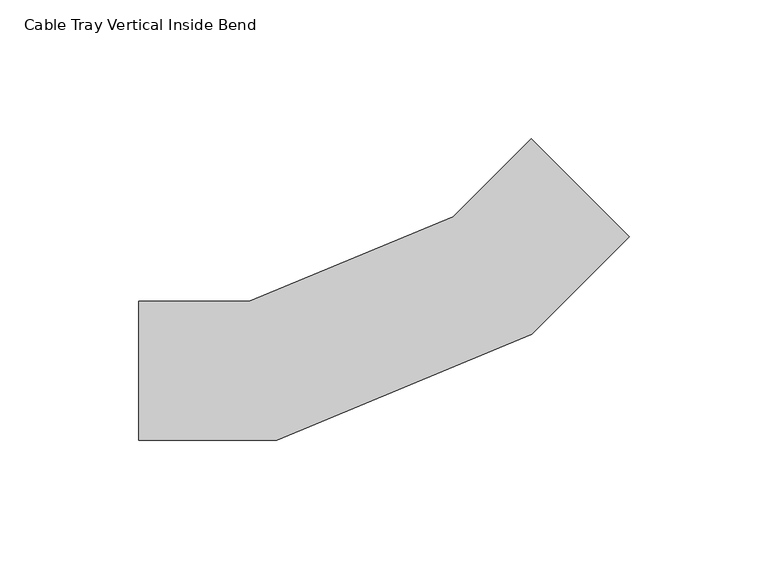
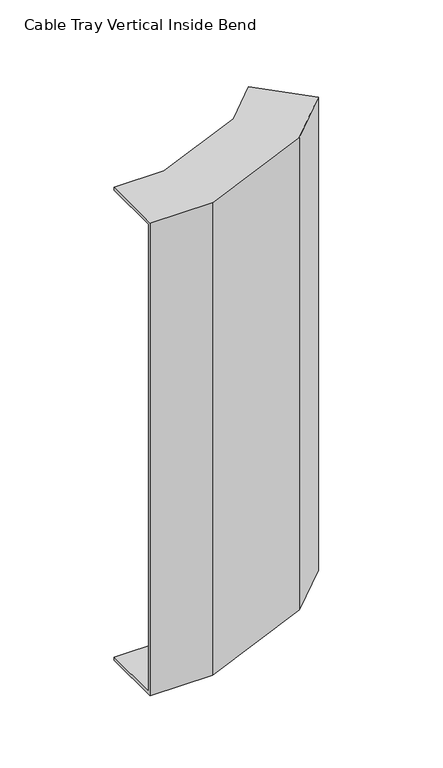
"""IFC4 building model written with IfcOpenShell, lengths in millimetres: cable carrier fitting geometry, Cable Tray Vertical Inside Bend : ELEC_SUB_CT_N2402."""

from ifc_helpers import new_model, si_unit, origin, place, context, project, spatial, faceted_brep, source, transform, mapped, element, save


def cable_tray_vertical_inside_bend_f6baaffd(model_context):
    return source(origin(), model_context, "Body", "Brep", [
        faceted_brep([(-93.1980515, 25.0, 200.0), (-93.1980515, 25.0, 197.46), (-93.1980515, -22.46, 197.46), (-93.1980515, -22.46, -197.46), (-93.1980515, 25.0, -197.46), (-93.1980515, 25.0, -200.0), (-93.1980515, -25.0, -200.0), (-93.1980515, -25.0, 200.0), (48.2233047, 83.5786438, 200.0), (83.5786438, 48.2233047, 200.0), (83.5786438, 48.2233047, -200.0), (48.2233047, 83.5786438, -200.0), (48.2233047, 83.5786438, -197.46), (81.7825925, 50.0193559, -197.46), (81.7825925, 50.0193559, 197.46), (48.2233047, 83.5786438, 197.46), (-53.4155781, 25.0, 200.0), (-53.4155781, 25.0, 197.46), (20.0928479, 55.448187, 197.46), (46.9767784, 15.2135418, 197.46), (-43.9751971, -22.46, 197.46), (-43.9751971, -22.46, -197.46), (46.9767784, 15.2135418, -197.46), (20.0928479, 55.448187, -197.46), (-53.4155781, 25.0, -197.46), (-53.4155781, 25.0, -200.0), (20.0928479, 55.448187, -200.0), (48.4155728, 13.0602337, -200.0), (-43.4699597, -25.0, -200.0), (-43.4699597, -25.0, 200.0), (48.4155728, 13.0602337, 200.0), (20.0928479, 55.448187, 200.0)], [[[0, 1, 2, 3, 4, 5, 6, 7]], [[8, 9, 10, 11, 12, 13, 14, 15]], [[1, 0, 16, 17]], [[2, 1, 17, 18, 15, 14, 19, 20]], [[3, 2, 20, 21]], [[4, 3, 21, 22, 13, 12, 23, 24]], [[5, 4, 24, 25]], [[6, 5, 25, 26, 11, 10, 27, 28]], [[7, 6, 28, 29]], [[0, 7, 29, 30, 9, 8, 31, 16]], [[17, 16, 31, 18]], [[21, 20, 19, 22]], [[25, 24, 23, 26]], [[29, 28, 27, 30]], [[18, 31, 8, 15]], [[22, 19, 14, 13]], [[26, 23, 12, 11]], [[30, 27, 10, 9]]]),
    ])


if __name__ == "__main__":
    model = new_model("IFC4")
    model_context = context("Model", 3, world=origin())
    ifc_project = project(units=[si_unit("LENGTHUNIT", "METRE", prefix="MILLI")], contexts=[model_context])
    site = spatial("IfcSite", under=ifc_project)
    building = spatial("IfcBuilding", under=site)
    placement = place(None, origin())
    cable_tray_vertical_inside_bend_shape = cable_tray_vertical_inside_bend_f6baaffd(model_context)
    element("IfcCableCarrierFitting", 1, ObjectType="Cable Tray Vertical Inside Bend : ELEC_SUB_CT_N2402", at=placement, inside=building, context=model_context, shape_type="MappedRepresentation", body=[
        mapped(cable_tray_vertical_inside_bend_shape, transform((0.0, 0.0, 0.0), x_axis=(1.0, 0.0, 0.0), y_axis=(0.0, 1.0, 0.0), z_axis=(0.0, 0.0, 1.0))),
    ])
    save(model, "model.ifc")
